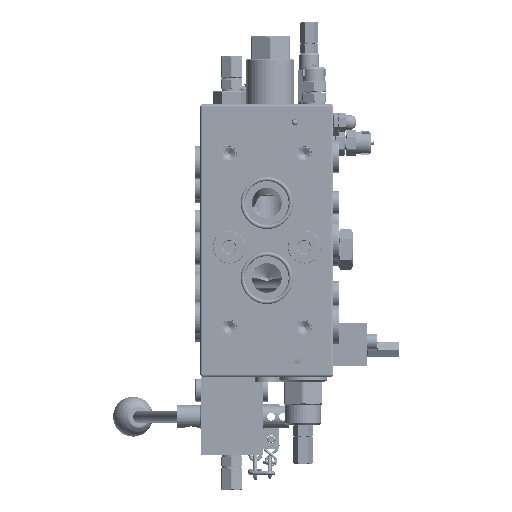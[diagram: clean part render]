
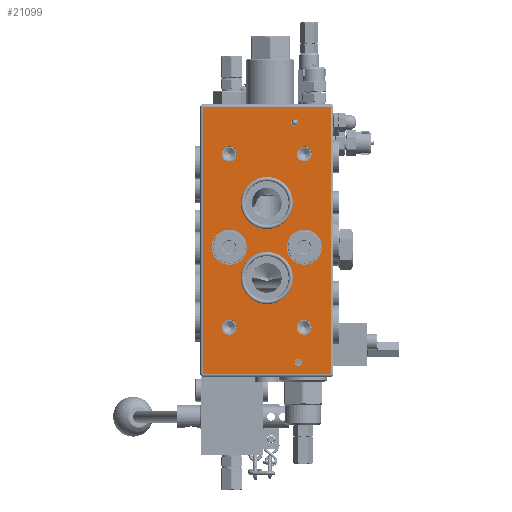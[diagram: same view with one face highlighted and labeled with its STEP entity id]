
A CAD part, front view. The second image highlights one B-rep face of the part: STEP entity #21099.
In plain terms, the highlighted planar face has unit normal (0, -1, 0) as drawn and (0, 0, -1) by its records, which use the part's own axes.
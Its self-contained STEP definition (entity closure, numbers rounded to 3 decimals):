
#572=DIRECTION('',(0.,-1.,0.));
#573=VECTOR('',#572,221.);
#574=CARTESIAN_POINT('',(53.,-2.,-225.));
#575=LINE('',#574,#573);
#591=DIRECTION('',(1.,0.,0.));
#592=VECTOR('',#591,106.);
#593=CARTESIAN_POINT('',(-53.,-2.,-225.));
#594=LINE('',#593,#592);
#599=CARTESIAN_POINT('',(0.,-143.5,-225.));
#600=DIRECTION('',(0.,0.,-1.));
#601=DIRECTION('',(0.,1.,0.));
#602=AXIS2_PLACEMENT_3D('',#599,#600,#601);
#604=CARTESIAN_POINT('',(0.,-143.5,-225.));
#605=DIRECTION('',(0.,0.,-1.));
#606=DIRECTION('',(0.,-1.,0.));
#607=AXIS2_PLACEMENT_3D('',#604,#605,#606);
#609=CARTESIAN_POINT('',(0.,-81.5,-225.));
#610=DIRECTION('',(0.,0.,-1.));
#611=DIRECTION('',(0.,1.,0.));
#612=AXIS2_PLACEMENT_3D('',#609,#610,#611);
#614=CARTESIAN_POINT('',(0.,-81.5,-225.));
#615=DIRECTION('',(0.,0.,-1.));
#616=DIRECTION('',(0.,-1.,0.));
#617=AXIS2_PLACEMENT_3D('',#614,#615,#616);
#619=CARTESIAN_POINT('',(23.,-210.,-225.));
#620=DIRECTION('',(0.,0.,-1.));
#621=DIRECTION('',(1.,0.,0.));
#622=AXIS2_PLACEMENT_3D('',#619,#620,#621);
#624=CARTESIAN_POINT('',(23.,-210.,-225.));
#625=DIRECTION('',(0.,0.,-1.));
#626=DIRECTION('',(-1.,0.,0.));
#627=AXIS2_PLACEMENT_3D('',#624,#625,#626);
#629=CARTESIAN_POINT('',(26.,-12.,-225.));
#630=DIRECTION('',(0.,0.,-1.));
#631=DIRECTION('',(1.,0.,0.));
#632=AXIS2_PLACEMENT_3D('',#629,#630,#631);
#634=CARTESIAN_POINT('',(26.,-12.,-225.));
#635=DIRECTION('',(0.,0.,-1.));
#636=DIRECTION('',(-1.,0.,0.));
#637=AXIS2_PLACEMENT_3D('',#634,#635,#636);
#639=CARTESIAN_POINT('',(-31.,-184.,-225.));
#640=DIRECTION('',(0.,0.,-1.));
#641=DIRECTION('',(1.,0.,0.));
#642=AXIS2_PLACEMENT_3D('',#639,#640,#641);
#644=CARTESIAN_POINT('',(-31.,-184.,-225.));
#645=DIRECTION('',(0.,0.,-1.));
#646=DIRECTION('',(-1.,0.,0.));
#647=AXIS2_PLACEMENT_3D('',#644,#645,#646);
#649=CARTESIAN_POINT('',(31.,-184.,-225.));
#650=DIRECTION('',(0.,0.,-1.));
#651=DIRECTION('',(1.,0.,0.));
#652=AXIS2_PLACEMENT_3D('',#649,#650,#651);
#654=CARTESIAN_POINT('',(31.,-184.,-225.));
#655=DIRECTION('',(0.,0.,-1.));
#656=DIRECTION('',(-1.,0.,0.));
#657=AXIS2_PLACEMENT_3D('',#654,#655,#656);
#659=CARTESIAN_POINT('',(-31.,-41.,-225.));
#660=DIRECTION('',(0.,0.,-1.));
#661=DIRECTION('',(1.,0.,0.));
#662=AXIS2_PLACEMENT_3D('',#659,#660,#661);
#664=CARTESIAN_POINT('',(-31.,-41.,-225.));
#665=DIRECTION('',(0.,0.,-1.));
#666=DIRECTION('',(-1.,0.,0.));
#667=AXIS2_PLACEMENT_3D('',#664,#665,#666);
#669=CARTESIAN_POINT('',(31.,-41.,-225.));
#670=DIRECTION('',(0.,0.,-1.));
#671=DIRECTION('',(1.,0.,0.));
#672=AXIS2_PLACEMENT_3D('',#669,#670,#671);
#674=CARTESIAN_POINT('',(31.,-41.,-225.));
#675=DIRECTION('',(0.,0.,-1.));
#676=DIRECTION('',(-1.,0.,0.));
#677=AXIS2_PLACEMENT_3D('',#674,#675,#676);
#679=CARTESIAN_POINT('',(-31.,-107.,-225.));
#680=DIRECTION('',(0.,0.,-1.));
#681=DIRECTION('',(1.,0.,0.));
#682=AXIS2_PLACEMENT_3D('',#679,#680,#681);
#684=CARTESIAN_POINT('',(-31.,-107.,-225.));
#685=DIRECTION('',(0.,0.,-1.));
#686=DIRECTION('',(-1.,0.,0.));
#687=AXIS2_PLACEMENT_3D('',#684,#685,#686);
#689=CARTESIAN_POINT('',(31.,-107.,-225.));
#690=DIRECTION('',(0.,0.,-1.));
#691=DIRECTION('',(1.,0.,0.));
#692=AXIS2_PLACEMENT_3D('',#689,#690,#691);
#694=CARTESIAN_POINT('',(31.,-107.,-225.));
#695=DIRECTION('',(0.,0.,-1.));
#696=DIRECTION('',(-1.,0.,0.));
#697=AXIS2_PLACEMENT_3D('',#694,#695,#696);
#699=DIRECTION('',(0.,1.,0.));
#700=VECTOR('',#699,221.);
#701=CARTESIAN_POINT('',(-53.,-223.,-225.));
#702=LINE('',#701,#700);
#1210=DIRECTION('',(-1.,0.,0.));
#1211=VECTOR('',#1210,106.);
#1212=CARTESIAN_POINT('',(53.,-223.,-225.));
#1213=LINE('',#1212,#1211);
#17708=CARTESIAN_POINT('',(53.,-2.,-225.));
#17709=VERTEX_POINT('',#17708);
#17710=CARTESIAN_POINT('',(53.,-223.,-225.));
#17711=VERTEX_POINT('',#17710);
#17712=CARTESIAN_POINT('',(-53.,-2.,-225.));
#17713=VERTEX_POINT('',#17712);
#17714=CARTESIAN_POINT('',(-53.,-223.,-225.));
#17715=VERTEX_POINT('',#17714);
#17716=CARTESIAN_POINT('',(0.,-122.,-225.));
#17717=CARTESIAN_POINT('',(0.,-165.,-225.));
#17718=VERTEX_POINT('',#17716);
#17719=VERTEX_POINT('',#17717);
#17720=CARTESIAN_POINT('',(0.,-60.,-225.));
#17721=CARTESIAN_POINT('',(0.,-103.,-225.));
#17722=VERTEX_POINT('',#17720);
#17723=VERTEX_POINT('',#17721);
#17724=CARTESIAN_POINT('',(26.,-210.,-225.));
#17725=CARTESIAN_POINT('',(20.,-210.,-225.));
#17726=VERTEX_POINT('',#17724);
#17727=VERTEX_POINT('',#17725);
#17728=CARTESIAN_POINT('',(29.,-12.,-225.));
#17729=CARTESIAN_POINT('',(23.,-12.,-225.));
#17730=VERTEX_POINT('',#17728);
#17731=VERTEX_POINT('',#17729);
#17732=CARTESIAN_POINT('',(-24.75,-184.,-225.));
#17733=CARTESIAN_POINT('',(-37.25,-184.,-225.));
#17734=VERTEX_POINT('',#17732);
#17735=VERTEX_POINT('',#17733);
#17736=CARTESIAN_POINT('',(37.25,-184.,-225.));
#17737=CARTESIAN_POINT('',(24.75,-184.,-225.));
#17738=VERTEX_POINT('',#17736);
#17739=VERTEX_POINT('',#17737);
#17740=CARTESIAN_POINT('',(-24.75,-41.,-225.));
#17741=CARTESIAN_POINT('',(-37.25,-41.,-225.));
#17742=VERTEX_POINT('',#17740);
#17743=VERTEX_POINT('',#17741);
#17744=CARTESIAN_POINT('',(37.25,-41.,-225.));
#17745=CARTESIAN_POINT('',(24.75,-41.,-225.));
#17746=VERTEX_POINT('',#17744);
#17747=VERTEX_POINT('',#17745);
#17748=CARTESIAN_POINT('',(-16.5,-107.,-225.));
#17749=CARTESIAN_POINT('',(-45.5,-107.,-225.));
#17750=VERTEX_POINT('',#17748);
#17751=VERTEX_POINT('',#17749);
#17752=CARTESIAN_POINT('',(45.5,-107.,-225.));
#17753=CARTESIAN_POINT('',(16.5,-107.,-225.));
#17754=VERTEX_POINT('',#17752);
#17755=VERTEX_POINT('',#17753);
#21026=CARTESIAN_POINT('',(-55.,0.,-225.));
#21027=DIRECTION('',(0.,0.,-1.));
#21028=DIRECTION('',(1.,0.,0.));
#21029=AXIS2_PLACEMENT_3D('',#21026,#21027,#21028);
#21030=PLANE('',#21029);
#21032=ORIENTED_EDGE('',*,*,#21031,.F.);
#21034=ORIENTED_EDGE('',*,*,#21033,.F.);
#21035=ORIENTED_EDGE('',*,*,#20993,.F.);
#21036=ORIENTED_EDGE('',*,*,#21017,.F.);
#21037=EDGE_LOOP('',(#21032,#21034,#21035,#21036));
#21038=FACE_OUTER_BOUND('',#21037,.F.);
#21040=ORIENTED_EDGE('',*,*,#21039,.T.);
#21042=ORIENTED_EDGE('',*,*,#21041,.T.);
#21043=EDGE_LOOP('',(#21040,#21042));
#21044=FACE_BOUND('',#21043,.F.);
#21046=ORIENTED_EDGE('',*,*,#21045,.T.);
#21048=ORIENTED_EDGE('',*,*,#21047,.T.);
#21049=EDGE_LOOP('',(#21046,#21048));
#21050=FACE_BOUND('',#21049,.F.);
#21052=ORIENTED_EDGE('',*,*,#21051,.T.);
#21054=ORIENTED_EDGE('',*,*,#21053,.T.);
#21055=EDGE_LOOP('',(#21052,#21054));
#21056=FACE_BOUND('',#21055,.F.);
#21058=ORIENTED_EDGE('',*,*,#21057,.T.);
#21060=ORIENTED_EDGE('',*,*,#21059,.T.);
#21061=EDGE_LOOP('',(#21058,#21060));
#21062=FACE_BOUND('',#21061,.F.);
#21064=ORIENTED_EDGE('',*,*,#21063,.T.);
#21066=ORIENTED_EDGE('',*,*,#21065,.T.);
#21067=EDGE_LOOP('',(#21064,#21066));
#21068=FACE_BOUND('',#21067,.F.);
#21070=ORIENTED_EDGE('',*,*,#21069,.T.);
#21072=ORIENTED_EDGE('',*,*,#21071,.T.);
#21073=EDGE_LOOP('',(#21070,#21072));
#21074=FACE_BOUND('',#21073,.F.);
#21076=ORIENTED_EDGE('',*,*,#21075,.T.);
#21078=ORIENTED_EDGE('',*,*,#21077,.T.);
#21079=EDGE_LOOP('',(#21076,#21078));
#21080=FACE_BOUND('',#21079,.F.);
#21082=ORIENTED_EDGE('',*,*,#21081,.T.);
#21084=ORIENTED_EDGE('',*,*,#21083,.T.);
#21085=EDGE_LOOP('',(#21082,#21084));
#21086=FACE_BOUND('',#21085,.F.);
#21088=ORIENTED_EDGE('',*,*,#21087,.T.);
#21090=ORIENTED_EDGE('',*,*,#21089,.T.);
#21091=EDGE_LOOP('',(#21088,#21090));
#21092=FACE_BOUND('',#21091,.F.);
#21094=ORIENTED_EDGE('',*,*,#21093,.T.);
#21096=ORIENTED_EDGE('',*,*,#21095,.T.);
#21097=EDGE_LOOP('',(#21094,#21096));
#21098=FACE_BOUND('',#21097,.F.);
#603=CIRCLE('',#602,21.5);
#608=CIRCLE('',#607,21.5);
#613=CIRCLE('',#612,21.5);
#618=CIRCLE('',#617,21.5);
#623=CIRCLE('',#622,3.);
#628=CIRCLE('',#627,3.);
#633=CIRCLE('',#632,3.);
#638=CIRCLE('',#637,3.);
#643=CIRCLE('',#642,6.25);
#648=CIRCLE('',#647,6.25);
#653=CIRCLE('',#652,6.25);
#658=CIRCLE('',#657,6.25);
#663=CIRCLE('',#662,6.25);
#668=CIRCLE('',#667,6.25);
#673=CIRCLE('',#672,6.25);
#678=CIRCLE('',#677,6.25);
#683=CIRCLE('',#682,14.5);
#688=CIRCLE('',#687,14.5);
#693=CIRCLE('',#692,14.5);
#698=CIRCLE('',#697,14.5);
#20993=EDGE_CURVE('',#17709,#17711,#575,.T.);
#21017=EDGE_CURVE('',#17713,#17709,#594,.T.);
#21031=EDGE_CURVE('',#17715,#17713,#702,.T.);
#21033=EDGE_CURVE('',#17711,#17715,#1213,.T.);
#21039=EDGE_CURVE('',#17718,#17719,#603,.T.);
#21041=EDGE_CURVE('',#17719,#17718,#608,.T.);
#21045=EDGE_CURVE('',#17722,#17723,#613,.T.);
#21047=EDGE_CURVE('',#17723,#17722,#618,.T.);
#21051=EDGE_CURVE('',#17726,#17727,#623,.T.);
#21053=EDGE_CURVE('',#17727,#17726,#628,.T.);
#21057=EDGE_CURVE('',#17730,#17731,#633,.T.);
#21059=EDGE_CURVE('',#17731,#17730,#638,.T.);
#21063=EDGE_CURVE('',#17734,#17735,#643,.T.);
#21065=EDGE_CURVE('',#17735,#17734,#648,.T.);
#21069=EDGE_CURVE('',#17738,#17739,#653,.T.);
#21071=EDGE_CURVE('',#17739,#17738,#658,.T.);
#21075=EDGE_CURVE('',#17742,#17743,#663,.T.);
#21077=EDGE_CURVE('',#17743,#17742,#668,.T.);
#21081=EDGE_CURVE('',#17746,#17747,#673,.T.);
#21083=EDGE_CURVE('',#17747,#17746,#678,.T.);
#21087=EDGE_CURVE('',#17750,#17751,#683,.T.);
#21089=EDGE_CURVE('',#17751,#17750,#688,.T.);
#21093=EDGE_CURVE('',#17754,#17755,#693,.T.);
#21095=EDGE_CURVE('',#17755,#17754,#698,.T.);
#21099=ADVANCED_FACE('',(#21038,#21044,#21050,#21056,#21062,#21068,#21074,
#21080,#21086,#21092,#21098),#21030,.T.);
